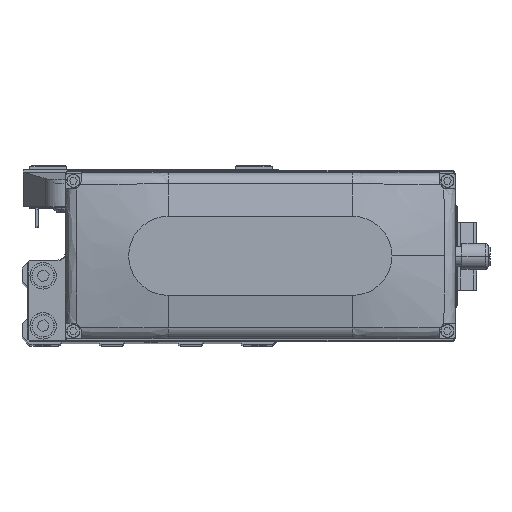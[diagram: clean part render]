
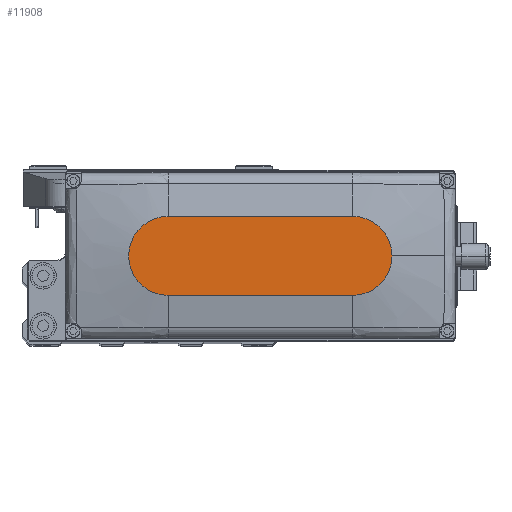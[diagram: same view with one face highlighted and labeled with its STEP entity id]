
A CAD part, top view. The second image highlights one B-rep face of the part: STEP entity #11908.
In plain terms, the highlighted planar face has unit normal (0, 0, 1).
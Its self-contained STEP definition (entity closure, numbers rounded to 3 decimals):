
#386 = CIRCLE ( 'NONE', #25394, 15. ) ;
#3087 = DIRECTION ( 'NONE',  ( 0., 0., 1. ) ) ;
#3421 = CARTESIAN_POINT ( 'NONE',  ( -35., -15., 35. ) ) ;
#4199 = ORIENTED_EDGE ( 'NONE', *, *, #31093, .T. ) ;
#5123 = LINE ( 'NONE', #18771, #30127 ) ;
#5331 = EDGE_CURVE ( 'NONE', #6363, #31699, #386, .T. ) ;
#5418 = DIRECTION ( 'NONE',  ( 1., 0., 0. ) ) ;
#5869 = CARTESIAN_POINT ( 'NONE',  ( 50., 0., 35. ) ) ;
#6024 = DIRECTION ( 'NONE',  ( 1., 0., 0. ) ) ;
#6363 = VERTEX_POINT ( 'NONE', #24219 ) ;
#6864 = DIRECTION ( 'NONE',  ( 0., 0., 1. ) ) ;
#7027 = EDGE_CURVE ( 'NONE', #19239, #6363, #5123, .T. ) ;
#7405 = EDGE_LOOP ( 'NONE', ( #10870, #19218, #19489, #4199, #19962 ) ) ;
#10150 = EDGE_CURVE ( 'NONE', #31699, #13619, #23019, .T. ) ;
#10219 = FACE_OUTER_BOUND ( 'NONE', #7405, .T. ) ;
#10870 = ORIENTED_EDGE ( 'NONE', *, *, #7027, .T. ) ;
#10949 = CARTESIAN_POINT ( 'NONE',  ( 35., 0., 35. ) ) ;
#11908 = ADVANCED_FACE ( 'NONE', ( #10219 ), #23858, .T. ) ;
#12852 = VECTOR ( 'NONE', #6024, 1000. ) ;
#13619 = VERTEX_POINT ( 'NONE', #17151 ) ;
#14162 = AXIS2_PLACEMENT_3D ( 'NONE', #10949, #24589, #38243 ) ;
#16735 = DIRECTION ( 'NONE',  ( 1., 0., 0. ) ) ;
#17151 = CARTESIAN_POINT ( 'NONE',  ( 35., -15., 35. ) ) ;
#18771 = CARTESIAN_POINT ( 'NONE',  ( -35., 15., 35. ) ) ;
#19172 = CIRCLE ( 'NONE', #44210, 15. ) ;
#19218 = ORIENTED_EDGE ( 'NONE', *, *, #5331, .T. ) ;
#19239 = VERTEX_POINT ( 'NONE', #43941 ) ;
#19489 = ORIENTED_EDGE ( 'NONE', *, *, #10150, .T. ) ;
#19962 = ORIENTED_EDGE ( 'NONE', *, *, #32909, .T. ) ;
#20505 = DIRECTION ( 'NONE',  ( 1., 0., 0. ) ) ;
#22418 = CARTESIAN_POINT ( 'NONE',  ( 35., 0., 35. ) ) ;
#23019 = LINE ( 'NONE', #36672, #12852 ) ;
#23858 = PLANE ( 'NONE',  #25242 ) ;
#24219 = CARTESIAN_POINT ( 'NONE',  ( -35., 15., 35. ) ) ;
#24589 = DIRECTION ( 'NONE',  ( 0., 0., 1. ) ) ;
#25242 = AXIS2_PLACEMENT_3D ( 'NONE', #37509, #6864, #20505 ) ;
#25394 = AXIS2_PLACEMENT_3D ( 'NONE', #33751, #3087, #16735 ) ;
#30127 = VECTOR ( 'NONE', #32428, 1000. ) ;
#31093 = EDGE_CURVE ( 'NONE', #13619, #42851, #33459, .T. ) ;
#31699 = VERTEX_POINT ( 'NONE', #3421 ) ;
#32428 = DIRECTION ( 'NONE',  ( -1., 0., 0. ) ) ;
#32909 = EDGE_CURVE ( 'NONE', #42851, #19239, #19172, .T. ) ;
#33459 = CIRCLE ( 'NONE', #14162, 15. ) ;
#33751 = CARTESIAN_POINT ( 'NONE',  ( -35., 0., 35. ) ) ;
#36065 = DIRECTION ( 'NONE',  ( 0., 0., 1. ) ) ;
#36672 = CARTESIAN_POINT ( 'NONE',  ( -35., -15., 35. ) ) ;
#37509 = CARTESIAN_POINT ( 'NONE',  ( 0., 0., 35. ) ) ;
#38243 = DIRECTION ( 'NONE',  ( 1., 0., 0. ) ) ;
#42851 = VERTEX_POINT ( 'NONE', #5869 ) ;
#43941 = CARTESIAN_POINT ( 'NONE',  ( 35., 15., 35. ) ) ;
#44210 = AXIS2_PLACEMENT_3D ( 'NONE', #22418, #36065, #5418 ) ;
